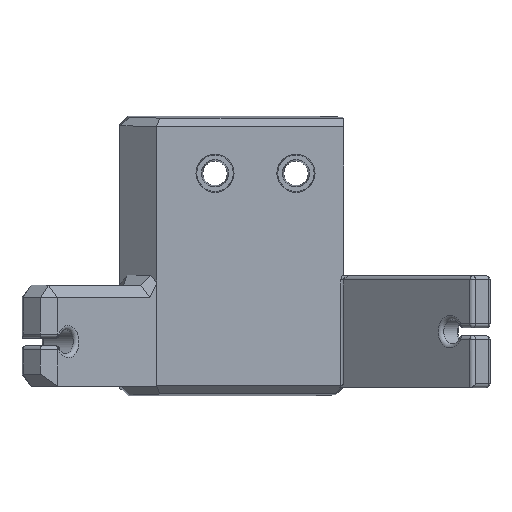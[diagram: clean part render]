
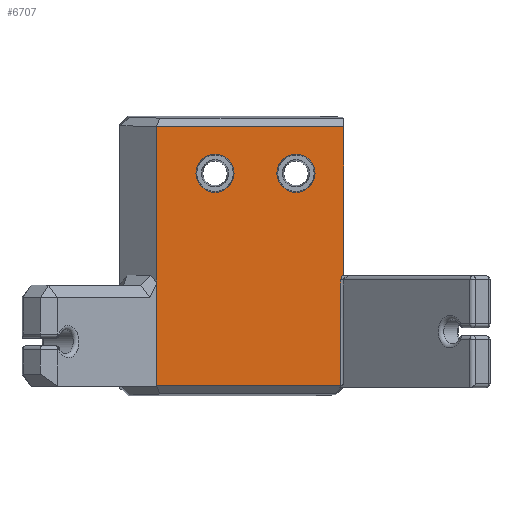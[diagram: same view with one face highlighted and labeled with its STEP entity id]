
A CAD part, top view. The second image highlights one B-rep face of the part: STEP entity #6707.
In plain terms, the highlighted planar face has unit normal (0, 0, 1).
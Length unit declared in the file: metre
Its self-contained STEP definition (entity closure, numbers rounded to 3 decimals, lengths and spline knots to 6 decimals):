
#307=CIRCLE('',#7215,0.00471);
#308=CIRCLE('',#7216,0.00471);
#444=ELLIPSE('',#7214,0.003023,0.002);
#1398=ORIENTED_EDGE('',*,*,#3123,.T.);
#1399=ORIENTED_EDGE('',*,*,#3124,.T.);
#1400=ORIENTED_EDGE('',*,*,#3125,.T.);
#1401=ORIENTED_EDGE('',*,*,#2778,.T.);
#1402=ORIENTED_EDGE('',*,*,#3126,.T.);
#1403=ORIENTED_EDGE('',*,*,#2491,.T.);
#1404=ORIENTED_EDGE('',*,*,#2456,.T.);
#1405=ORIENTED_EDGE('',*,*,#3127,.F.);
#1406=ORIENTED_EDGE('',*,*,#3128,.F.);
#2456=EDGE_CURVE('',#3446,#3445,#4085,.T.);
#2491=EDGE_CURVE('',#3479,#3446,#4117,.T.);
#2778=EDGE_CURVE('',#3683,#3684,#4285,.T.);
#3123=EDGE_CURVE('',#3445,#3955,#4557,.T.);
#3124=EDGE_CURVE('',#3955,#3956,#444,.F.);
#3125=EDGE_CURVE('',#3956,#3683,#4558,.T.);
#3126=EDGE_CURVE('',#3684,#3479,#4559,.T.);
#3127=EDGE_CURVE('',#3957,#3957,#307,.T.);
#3128=EDGE_CURVE('',#3958,#3958,#308,.T.);
#3445=VERTEX_POINT('',#9382);
#3446=VERTEX_POINT('',#9384);
#3479=VERTEX_POINT('',#9459);
#3683=VERTEX_POINT('',#11589);
#3684=VERTEX_POINT('',#11592);
#3955=VERTEX_POINT('',#12348);
#3956=VERTEX_POINT('',#12350);
#3957=VERTEX_POINT('',#12354);
#3958=VERTEX_POINT('',#12356);
#4085=LINE('',#9383,#4763);
#4117=LINE('',#9458,#4795);
#4285=LINE('',#11593,#4963);
#4557=LINE('',#12347,#5235);
#4558=LINE('',#12351,#5236);
#4559=LINE('',#12352,#5237);
#4763=VECTOR('',#7553,1.);
#4795=VECTOR('',#7605,1.);
#4963=VECTOR('',#7979,1.);
#5235=VECTOR('',#8527,1.);
#5236=VECTOR('',#8530,1.);
#5237=VECTOR('',#8531,1.);
#5614=EDGE_LOOP('',(#1398,#1399,#1400,#1401,#1402,#1403,#1404));
#5615=EDGE_LOOP('',(#1405));
#5616=EDGE_LOOP('',(#1406));
#6033=FACE_BOUND('',#5614,.T.);
#6034=FACE_BOUND('',#5615,.T.);
#6035=FACE_BOUND('',#5616,.T.);
#6405=PLANE('',#7213);
#6707=ADVANCED_FACE('',(#6033,#6034,#6035),#6405,.T.);
#7213=AXIS2_PLACEMENT_3D('',#12346,#8525,#8526);
#7214=AXIS2_PLACEMENT_3D('',#12349,#8528,#8529);
#7215=AXIS2_PLACEMENT_3D('',#12353,#8532,#8533);
#7216=AXIS2_PLACEMENT_3D('',#12355,#8534,#8535);
#7553=DIRECTION('',(1.,0.,0.));
#7605=DIRECTION('',(0.,-1.,0.));
#7979=DIRECTION('',(-1.,0.,0.));
#8525=DIRECTION('',(0.,0.,1.));
#8526=DIRECTION('',(1.,0.,0.));
#8527=DIRECTION('',(0.,1.,0.));
#8528=DIRECTION('',(0.,0.,1.));
#8529=DIRECTION('',(-1.,0.,0.));
#8530=DIRECTION('',(0.,1.,0.));
#8531=DIRECTION('',(0.,-1.,0.));
#8532=DIRECTION('',(0.,0.,1.));
#8533=DIRECTION('',(1.,0.,0.));
#8534=DIRECTION('',(0.,0.,1.));
#8535=DIRECTION('',(1.,0.,0.));
#9382=CARTESIAN_POINT('',(-0.000758,-0.065926,0.0165));
#9383=CARTESIAN_POINT('',(0.,-0.065926,0.0165));
#9384=CARTESIAN_POINT('',(-0.04627,-0.065926,0.0165));
#9458=CARTESIAN_POINT('',(-0.04627,0.000001,0.0165));
#9459=CARTESIAN_POINT('',(-0.04627,-0.040664,0.0165));
#11589=CARTESIAN_POINT('',(0.,-0.002074,0.0165));
#11592=CARTESIAN_POINT('',(-0.04627,-0.002074,0.0165));
#11593=CARTESIAN_POINT('',(-0.04627,-0.002074,0.0165));
#12346=CARTESIAN_POINT('',(0.,0.,0.0165));
#12347=CARTESIAN_POINT('',(-0.000758,0.,0.0165));
#12348=CARTESIAN_POINT('',(-0.000758,-0.03992,0.0165));
#12349=CARTESIAN_POINT('',(0.002265,-0.03992,0.0165));
#12350=CARTESIAN_POINT('',(0.,-0.038595,0.0165));
#12351=CARTESIAN_POINT('',(0.,-0.068,0.0165));
#12352=CARTESIAN_POINT('',(-0.04627,0.000001,0.0165));
#12353=CARTESIAN_POINT('',(-0.01185,-0.01355,0.0165));
#12354=CARTESIAN_POINT('',(-0.00714,-0.01355,0.0165));
#12355=CARTESIAN_POINT('',(-0.03185,-0.01355,0.0165));
#12356=CARTESIAN_POINT('',(-0.02714,-0.01355,0.0165));
